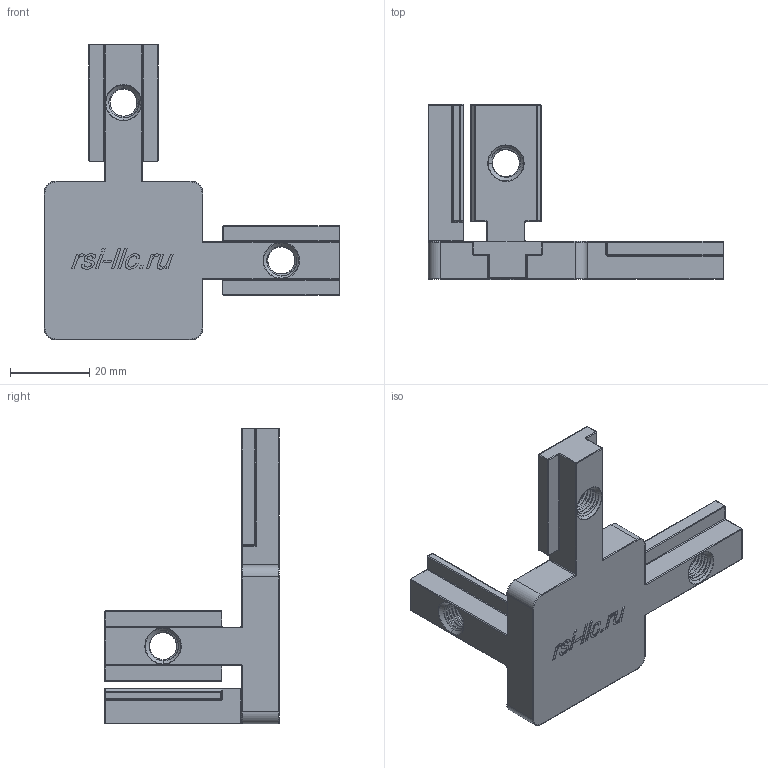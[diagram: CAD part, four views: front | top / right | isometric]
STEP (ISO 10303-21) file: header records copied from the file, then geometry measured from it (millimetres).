
FILE_DESCRIPTION (( 'STEP AP214' ), '1' );
FILE_NAME ('335.1400A.01.STEP', '2020-09-29T09:57:50', ( '' ), ( '' ), 'SwSTEP 2.0', 'SolidWorks 2018', '' );
FILE_SCHEMA (( 'AUTOMOTIVE_DESIGN' ));
Length unit declared in the file: millimetre
Products named in the file (1): 335.1400A.01
Bounding box: 74.5 x 44.1 x 74.5 mm (x, y, z)
Volume: 25259.6 mm3; surface area: 13106.3 mm2
Topology: 1 solids, 1 shells, 500 faces, 1252 edges, 722 vertices
Faces by surface type: cylinder 212, plane 118, torus 67, bspline 44, sphere 41, cone 18
Entity records: 30791 total; most frequent: CARTESIAN_POINT 18599, ORIENTED_EDGE 2422, DIRECTION 2259, EDGE_CURVE 1211, AXIS2_PLACEMENT_3D 844, VERTEX_POINT 722, LINE 571, VECTOR 571
